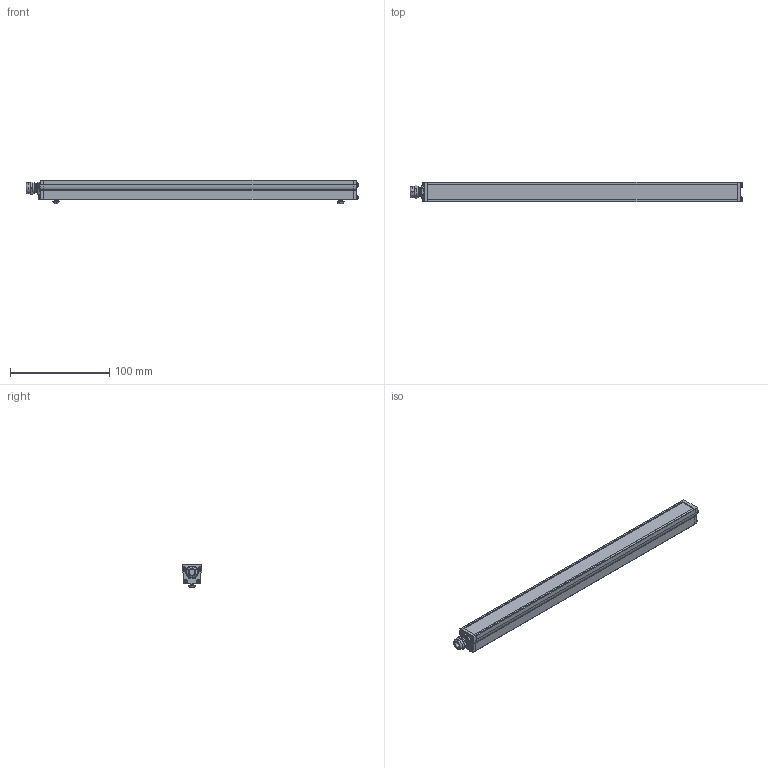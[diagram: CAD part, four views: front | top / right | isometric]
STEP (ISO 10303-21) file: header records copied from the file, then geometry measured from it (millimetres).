
FILE_DESCRIPTION (( 'STEP AP214' ), '1' );
FILE_NAME ('AL126 _NONSEALED__AL12612.stp', '2021-04-29T14:25:02', ( '' ), ( '' ), 'SwSTEP 2.0', 'SolidWorks 2018', '' );
FILE_SCHEMA (( 'AUTOMOTIVE_DESIGN' ));
Length unit declared in the file: inch
Products named in the file (15): 090876; AL126 _NONSEALED__AL12612; 093469_093469; 090875; BH-M4x6; 090877-XX_090877-12; 090889-XX_090889-12; HN-M4_90592A016; 10mm Advanced illumination; 10mm Label (116 126)_Default<As Machined>; 093474_093474; 10mm Ai; 091052 (116 126); 10mm Swish_Default<As Machined>; 091064_Model_Dome Fittings_Thread Type and Size(Dome)_M10 x 1.5_Hazardous Location-Explosive Proof(ATEX and EExe Versions)_No_
Assembly tree (24 placements, depth 3):
  AL126 _NONSEALED__AL12612
    090889-XX_090889-12
    090877-XX_090877-12
    090875
    090876
    093474_093474  x8
    093469_093469  x2
    091064_Model_Dome Fittings_Thread Type and Size(Dome)_M10 x 1.5_Hazardous Location-Explosive Proof(ATEX and EExe Versions)_No_
    HN-M4_90592A016  x2
    BH-M4x6  x2
    091052 (116 126)
      10mm Label (116 126)_Default<As Machined>
      10mm Ai
      10mm Swish_Default<As Machined>
      10mm Advanced illumination
Bounding box: 333.93 x 20.02 x 24.1 mm (x, y, z)
Volume: 45255.3 mm3; surface area: 65186.1 mm2
Topology: 48 solids, 48 shells, 1877 faces, 4840 edges, 3010 vertices
Faces by surface type: cylinder 934, plane 401, cone 362, bspline 120, torus 60
Entity records: 30293 total; most frequent: CARTESIAN_POINT 10456, ORIENTED_EDGE 4076, DIRECTION 3580, EDGE_CURVE 2038, VERTEX_POINT 1298, AXIS2_PLACEMENT_3D 1276, VECTOR 1028, LINE 1028
